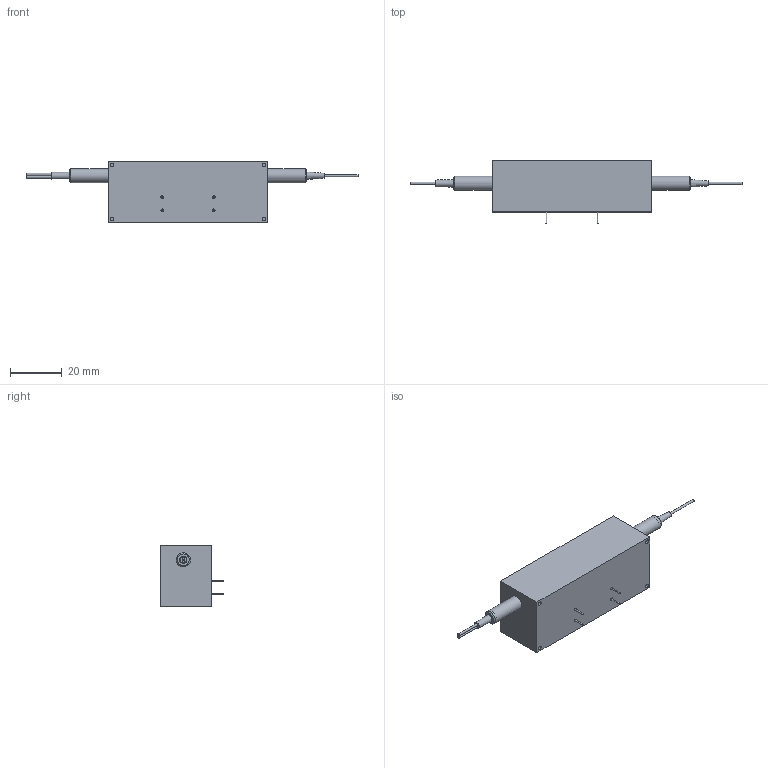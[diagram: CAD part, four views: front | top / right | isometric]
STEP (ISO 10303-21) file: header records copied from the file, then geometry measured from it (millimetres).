
FILE_DESCRIPTION (( 'STEP AP203' ), '1' );
FILE_NAME ('FFSH ASM.STEP', '2025-01-02T21:54:19', ( 'cad' ), ( '' ), 'SwSTEP 2.0', 'SolidWorks 2017', '' );
FILE_SCHEMA (( 'CONFIG_CONTROL_DESIGN' ));
Length unit declared in the file: millimetre
Products named in the file (5): FFSH ASM; metal tube; rubber boot; FFSH; rubber  Boot2
Assembly tree (5 placements, depth 2):
  FFSH ASM
    FFSH
    metal tube  x2
    rubber boot
    rubber  Boot2
Bounding box: 128.91 x 24.5 x 24 mm (x, y, z)
Volume: 30092.3 mm3; surface area: 8304.2 mm2
Topology: 7 solids, 7 shells, 83 faces, 150 edges, 96 vertices
Faces by surface type: plane 47, cylinder 30, cone 6
Full cylindrical faces by diameter (mm): 0.5 x4, 0.9 x3, 1 x5, 1.5 x6, 2.8 x2, 3.175 x2, 4.6 x2, 5 x2, 5.5 x2
Entity records: 2265 total; most frequent: DIRECTION 338, CARTESIAN_POINT 274, ORIENTED_EDGE 206, AXIS2_PLACEMENT_3D 151, EDGE_LOOP 134, EDGE_CURVE 103, FACE_OUTER_BOUND 101, VERTEX_POINT 87
